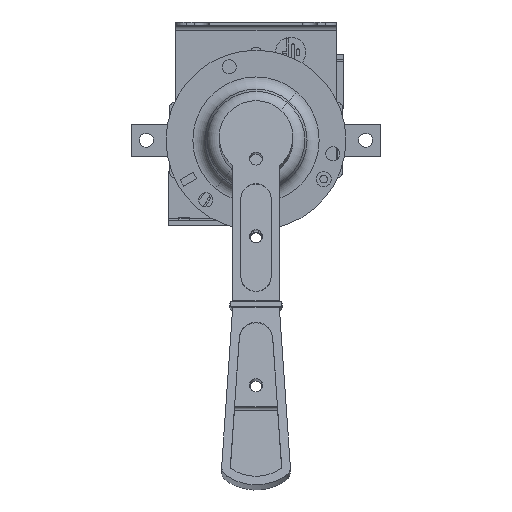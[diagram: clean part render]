
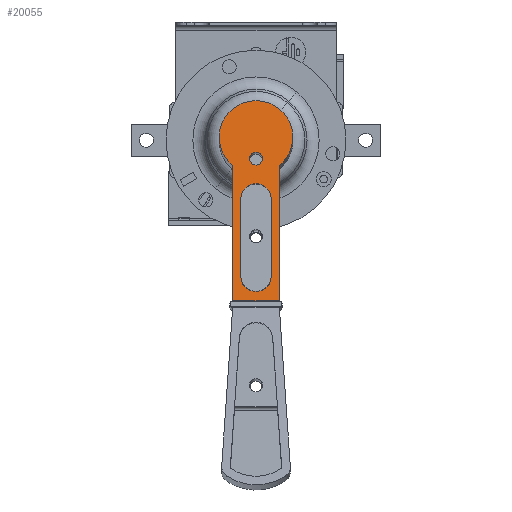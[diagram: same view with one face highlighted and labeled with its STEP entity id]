
A CAD part, left-side view. The second image highlights one B-rep face of the part: STEP entity #20055.
In plain terms, the highlighted planar face has unit normal (-0.992, 0, 0.128) as drawn and (0, -1, 0) by its records, which use the part's own axes.
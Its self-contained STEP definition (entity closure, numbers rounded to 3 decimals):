
#226 = EDGE_LOOP ( 'NONE', ( #23574, #90297, #134829, #61221, #76050, #121233 ) ) ;
#292 = DIRECTION ( 'NONE',  ( 0., -1., 0. ) ) ;
#2812 = DIRECTION ( 'NONE',  ( 0., -1., 0. ) ) ;
#3543 = VERTEX_POINT ( 'NONE', #72564 ) ;
#4650 = CARTESIAN_POINT ( 'NONE',  ( 9.166, -4.79, 7. ) ) ;
#9214 = CARTESIAN_POINT ( 'NONE',  ( 45.166, -4.79, -7. ) ) ;
#11749 = CARTESIAN_POINT ( 'NONE',  ( 9.166, -4.79, -7. ) ) ;
#14098 = CIRCLE ( 'NONE', #111292, 3. ) ;
#17415 = DIRECTION ( 'NONE',  ( 0., 1., 0. ) ) ;
#17446 = VERTEX_POINT ( 'NONE', #9214 ) ;
#17675 = EDGE_CURVE ( 'NONE', #3543, #117674, #14098, .T. ) ;
#17714 = PLANE ( 'NONE',  #50955 ) ;
#17726 = CARTESIAN_POINT ( 'NONE',  ( -35.334, -4.79, 10.75 ) ) ;
#19258 = CIRCLE ( 'NONE', #128307, 17. ) ;
#19275 = DIRECTION ( 'NONE',  ( 1., 0., 0. ) ) ;
#19465 = EDGE_CURVE ( 'NONE', #82834, #20732, #31995, .T. ) ;
#19894 = AXIS2_PLACEMENT_3D ( 'NONE', #35809, #111372, #90119 ) ;
#20055 = ADVANCED_FACE ( 'NONE', ( #100172, #96869, #73571 ), #17714, .F. ) ;
#20732 = VERTEX_POINT ( 'NONE', #128021 ) ;
#23574 = ORIENTED_EDGE ( 'NONE', *, *, #19465, .T. ) ;
#23789 = LINE ( 'NONE', #62897, #33771 ) ;
#25225 = CARTESIAN_POINT ( 'NONE',  ( -19.465, -4.79, 0. ) ) ;
#29346 = EDGE_CURVE ( 'NONE', #20732, #118875, #120500, .T. ) ;
#29711 = DIRECTION ( 'NONE',  ( -1., 0., 0. ) ) ;
#30450 = VECTOR ( 'NONE', #96403, 1000. ) ;
#31995 = CIRCLE ( 'NONE', #19894, 17. ) ;
#32203 = DIRECTION ( 'NONE',  ( 0., 0., -1. ) ) ;
#33771 = VECTOR ( 'NONE', #32203, 1000. ) ;
#34558 = DIRECTION ( 'NONE',  ( 0., 0., -1. ) ) ;
#35450 = ORIENTED_EDGE ( 'NONE', *, *, #111671, .F. ) ;
#35809 = CARTESIAN_POINT ( 'NONE',  ( -19.465, -4.79, 0. ) ) ;
#35858 = AXIS2_PLACEMENT_3D ( 'NONE', #50346, #93485, #60602 ) ;
#35938 = VERTEX_POINT ( 'NONE', #4650 ) ;
#40098 = CARTESIAN_POINT ( 'NONE',  ( -35.334, -4.79, -10.75 ) ) ;
#41169 = VECTOR ( 'NONE', #109881, 1000. ) ;
#41893 = LINE ( 'NONE', #40098, #48556 ) ;
#42148 = CARTESIAN_POINT ( 'NONE',  ( 9.166, -4.79, -7. ) ) ;
#42195 = ORIENTED_EDGE ( 'NONE', *, *, #110083, .F. ) ;
#42323 = CARTESIAN_POINT ( 'NONE',  ( -19.465, -4.79, -17. ) ) ;
#44246 = CARTESIAN_POINT ( 'NONE',  ( 56.666, -4.79, 10.75 ) ) ;
#45940 = DIRECTION ( 'NONE',  ( 0., 0., -1. ) ) ;
#46107 = EDGE_CURVE ( 'NONE', #118875, #92635, #19258, .T. ) ;
#47378 = LINE ( 'NONE', #42148, #30450 ) ;
#47771 = LINE ( 'NONE', #17726, #97569 ) ;
#48037 = ORIENTED_EDGE ( 'NONE', *, *, #60719, .F. ) ;
#48556 = VECTOR ( 'NONE', #19275, 1000. ) ;
#50346 = CARTESIAN_POINT ( 'NONE',  ( 9.166, -4.79, 0. ) ) ;
#50955 = AXIS2_PLACEMENT_3D ( 'NONE', #61646, #17415, #84346 ) ;
#52303 = CARTESIAN_POINT ( 'NONE',  ( -9.534, -4.79, 0. ) ) ;
#56850 = VERTEX_POINT ( 'NONE', #44246 ) ;
#58674 = EDGE_CURVE ( 'NONE', #56850, #75494, #23789, .T. ) ;
#60576 = CARTESIAN_POINT ( 'NONE',  ( 56.666, -4.79, -10.75 ) ) ;
#60602 = DIRECTION ( 'NONE',  ( 0., 0., -1. ) ) ;
#60719 = EDGE_CURVE ( 'NONE', #117674, #3543, #134659, .T. ) ;
#61221 = ORIENTED_EDGE ( 'NONE', *, *, #99025, .T. ) ;
#61646 = CARTESIAN_POINT ( 'NONE',  ( -35.334, -4.79, 17. ) ) ;
#62897 = CARTESIAN_POINT ( 'NONE',  ( 56.666, -4.79, 17. ) ) ;
#70663 = ORIENTED_EDGE ( 'NONE', *, *, #97320, .F. ) ;
#70760 = CARTESIAN_POINT ( 'NONE',  ( -6.295, -4.79, 10.75 ) ) ;
#71383 = CARTESIAN_POINT ( 'NONE',  ( -9.534, -4.79, 0. ) ) ;
#72564 = CARTESIAN_POINT ( 'NONE',  ( -9.534, -4.79, 3. ) ) ;
#73571 = FACE_BOUND ( 'NONE', #107051, .T. ) ;
#75494 = VERTEX_POINT ( 'NONE', #60576 ) ;
#76050 = ORIENTED_EDGE ( 'NONE', *, *, #58674, .F. ) ;
#77314 = CIRCLE ( 'NONE', #103907, 7. ) ;
#78141 = DIRECTION ( 'NONE',  ( 0., -1., 0. ) ) ;
#82834 = VERTEX_POINT ( 'NONE', #70760 ) ;
#82993 = DIRECTION ( 'NONE',  ( 0., -1., 0. ) ) ;
#84346 = DIRECTION ( 'NONE',  ( 0., 0., 1. ) ) ;
#86428 = DIRECTION ( 'NONE',  ( 0., 0., -1. ) ) ;
#88378 = AXIS2_PLACEMENT_3D ( 'NONE', #25225, #78141, #34558 ) ;
#89324 = EDGE_LOOP ( 'NONE', ( #48037, #114696 ) ) ;
#90119 = DIRECTION ( 'NONE',  ( 0., 0., -1. ) ) ;
#90297 = ORIENTED_EDGE ( 'NONE', *, *, #29346, .T. ) ;
#90972 = AXIS2_PLACEMENT_3D ( 'NONE', #71383, #82993, #114472 ) ;
#92635 = VERTEX_POINT ( 'NONE', #120878 ) ;
#93485 = DIRECTION ( 'NONE',  ( 0., -1., 0. ) ) ;
#95058 = EDGE_CURVE ( 'NONE', #56850, #82834, #47771, .T. ) ;
#96403 = DIRECTION ( 'NONE',  ( 1., 0., 0. ) ) ;
#96869 = FACE_OUTER_BOUND ( 'NONE', #226, .T. ) ;
#97320 = EDGE_CURVE ( 'NONE', #119309, #17446, #47378, .T. ) ;
#97569 = VECTOR ( 'NONE', #29711, 1000. ) ;
#99025 = EDGE_CURVE ( 'NONE', #92635, #75494, #41893, .T. ) ;
#99034 = CIRCLE ( 'NONE', #35858, 7. ) ;
#100172 = FACE_BOUND ( 'NONE', #89324, .T. ) ;
#103677 = EDGE_CURVE ( 'NONE', #35938, #119309, #99034, .T. ) ;
#103750 = CARTESIAN_POINT ( 'NONE',  ( -9.534, -4.79, -3. ) ) ;
#103907 = AXIS2_PLACEMENT_3D ( 'NONE', #107650, #2812, #45940 ) ;
#107051 = EDGE_LOOP ( 'NONE', ( #70663, #107649, #42195, #35450 ) ) ;
#107257 = CARTESIAN_POINT ( 'NONE',  ( -19.465, -4.79, 0. ) ) ;
#107649 = ORIENTED_EDGE ( 'NONE', *, *, #103677, .F. ) ;
#107650 = CARTESIAN_POINT ( 'NONE',  ( 45.166, -4.79, 0. ) ) ;
#109881 = DIRECTION ( 'NONE',  ( -1., 0., 0. ) ) ;
#110083 = EDGE_CURVE ( 'NONE', #123533, #35938, #114258, .T. ) ;
#111292 = AXIS2_PLACEMENT_3D ( 'NONE', #52303, #292, #126514 ) ;
#111372 = DIRECTION ( 'NONE',  ( 0., -1., 0. ) ) ;
#111671 = EDGE_CURVE ( 'NONE', #17446, #123533, #77314, .T. ) ;
#114258 = LINE ( 'NONE', #120109, #41169 ) ;
#114277 = CARTESIAN_POINT ( 'NONE',  ( 45.166, -4.79, 7. ) ) ;
#114472 = DIRECTION ( 'NONE',  ( 0., 0., -1. ) ) ;
#114696 = ORIENTED_EDGE ( 'NONE', *, *, #17675, .F. ) ;
#117674 = VERTEX_POINT ( 'NONE', #103750 ) ;
#118875 = VERTEX_POINT ( 'NONE', #42323 ) ;
#119303 = DIRECTION ( 'NONE',  ( 0., -1., 0. ) ) ;
#119309 = VERTEX_POINT ( 'NONE', #11749 ) ;
#120109 = CARTESIAN_POINT ( 'NONE',  ( 45.166, -4.79, 7. ) ) ;
#120500 = CIRCLE ( 'NONE', #88378, 17. ) ;
#120878 = CARTESIAN_POINT ( 'NONE',  ( -6.295, -4.79, -10.75 ) ) ;
#121233 = ORIENTED_EDGE ( 'NONE', *, *, #95058, .T. ) ;
#123533 = VERTEX_POINT ( 'NONE', #114277 ) ;
#126514 = DIRECTION ( 'NONE',  ( 0., 0., -1. ) ) ;
#128021 = CARTESIAN_POINT ( 'NONE',  ( -19.465, -4.79, 17. ) ) ;
#128307 = AXIS2_PLACEMENT_3D ( 'NONE', #107257, #119303, #86428 ) ;
#134659 = CIRCLE ( 'NONE', #90972, 3. ) ;
#134829 = ORIENTED_EDGE ( 'NONE', *, *, #46107, .T. ) ;
